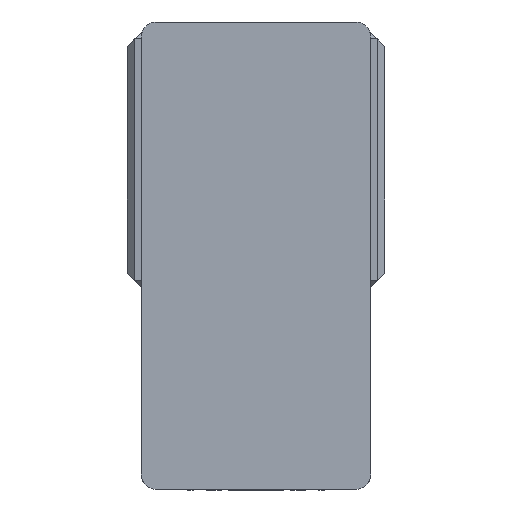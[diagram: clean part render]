
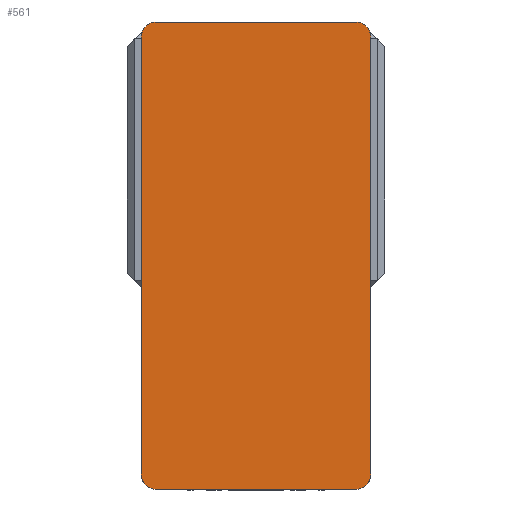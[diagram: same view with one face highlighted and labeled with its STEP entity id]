
A CAD part, left-side view. The second image highlights one B-rep face of the part: STEP entity #561.
In plain terms, the highlighted planar face has unit normal (-1, 0, 0) as drawn and (0, 0, 1) by its records, which use the part's own axes.
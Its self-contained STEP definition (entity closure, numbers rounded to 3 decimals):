
#41 = CARTESIAN_POINT ( 'NONE',  ( 65., 152.5, 105. ) ) ;
#214 = PLANE ( 'NONE',  #9255 ) ;
#422 = DIRECTION ( 'NONE',  ( 1., 0., 0. ) ) ;
#561 = ADVANCED_FACE ( 'NONE', ( #2829 ), #214, .T. ) ;
#696 = DIRECTION ( 'NONE',  ( 1., 0., 0. ) ) ;
#748 = VERTEX_POINT ( 'NONE', #7850 ) ;
#788 = CARTESIAN_POINT ( 'NONE',  ( 65., 142.5, 105. ) ) ;
#804 = ORIENTED_EDGE ( 'NONE', *, *, #6895, .T. ) ;
#819 = EDGE_LOOP ( 'NONE', ( #1095, #3771, #3560, #804, #2141, #9034, #1674, #2548 ) ) ;
#838 = VECTOR ( 'NONE', #1894, 1000. ) ;
#987 = LINE ( 'NONE', #6194, #3425 ) ;
#1069 = DIRECTION ( 'NONE',  ( 0., 0., 1. ) ) ;
#1095 = ORIENTED_EDGE ( 'NONE', *, *, #9619, .T. ) ;
#1133 = VERTEX_POINT ( 'NONE', #9523 ) ;
#1618 = DIRECTION ( 'NONE',  ( 1., 0., 0. ) ) ;
#1674 = ORIENTED_EDGE ( 'NONE', *, *, #5337, .T. ) ;
#1839 = CIRCLE ( 'NONE', #8568, 10. ) ;
#1848 = CARTESIAN_POINT ( 'NONE',  ( -75., 152.5, 105. ) ) ;
#1894 = DIRECTION ( 'NONE',  ( 0., 1., 0. ) ) ;
#2141 = ORIENTED_EDGE ( 'NONE', *, *, #4268, .T. ) ;
#2208 = CIRCLE ( 'NONE', #3453, 10. ) ;
#2462 = VERTEX_POINT ( 'NONE', #41 ) ;
#2548 = ORIENTED_EDGE ( 'NONE', *, *, #10521, .T. ) ;
#2564 = AXIS2_PLACEMENT_3D ( 'NONE', #788, #6581, #1618 ) ;
#2664 = DIRECTION ( 'NONE',  ( -1., 0., 0. ) ) ;
#2669 = EDGE_CURVE ( 'NONE', #8379, #9062, #9678, .T. ) ;
#2828 = AXIS2_PLACEMENT_3D ( 'NONE', #10377, #5387, #422 ) ;
#2829 = FACE_OUTER_BOUND ( 'NONE', #819, .T. ) ;
#3410 = CARTESIAN_POINT ( 'NONE',  ( -65., -142.5, 105. ) ) ;
#3412 = DIRECTION ( 'NONE',  ( 0., 0., 1. ) ) ;
#3425 = VECTOR ( 'NONE', #5360, 1000. ) ;
#3453 = AXIS2_PLACEMENT_3D ( 'NONE', #8394, #3412, #9240 ) ;
#3516 = CARTESIAN_POINT ( 'NONE',  ( 0., 0., 105. ) ) ;
#3560 = ORIENTED_EDGE ( 'NONE', *, *, #2669, .T. ) ;
#3738 = LINE ( 'NONE', #1848, #7365 ) ;
#3771 = ORIENTED_EDGE ( 'NONE', *, *, #5817, .T. ) ;
#3823 = CARTESIAN_POINT ( 'NONE',  ( -65., 152.5, 105. ) ) ;
#4256 = DIRECTION ( 'NONE',  ( 1., 0., 0. ) ) ;
#4268 = EDGE_CURVE ( 'NONE', #2462, #4436, #3738, .T. ) ;
#4392 = CARTESIAN_POINT ( 'NONE',  ( 75., 152.5, 105. ) ) ;
#4436 = VERTEX_POINT ( 'NONE', #3823 ) ;
#4536 = CIRCLE ( 'NONE', #2564, 10. ) ;
#5337 = EDGE_CURVE ( 'NONE', #748, #7261, #987, .T. ) ;
#5360 = DIRECTION ( 'NONE',  ( 0., -1., 0. ) ) ;
#5376 = CIRCLE ( 'NONE', #2828, 10. ) ;
#5387 = DIRECTION ( 'NONE',  ( 0., 0., 1. ) ) ;
#5817 = EDGE_CURVE ( 'NONE', #9186, #8379, #5376, .T. ) ;
#6194 = CARTESIAN_POINT ( 'NONE',  ( -75., 152.5, 105. ) ) ;
#6581 = DIRECTION ( 'NONE',  ( 0., 0., 1. ) ) ;
#6628 = CARTESIAN_POINT ( 'NONE',  ( 75., -142.5, 105. ) ) ;
#6861 = DIRECTION ( 'NONE',  ( 1., 0., 0. ) ) ;
#6895 = EDGE_CURVE ( 'NONE', #9062, #2462, #4536, .T. ) ;
#7189 = EDGE_CURVE ( 'NONE', #4436, #748, #2208, .T. ) ;
#7261 = VERTEX_POINT ( 'NONE', #7651 ) ;
#7365 = VECTOR ( 'NONE', #2664, 1000. ) ;
#7651 = CARTESIAN_POINT ( 'NONE',  ( -75., -142.5, 105. ) ) ;
#7850 = CARTESIAN_POINT ( 'NONE',  ( -75., 142.5, 105. ) ) ;
#8379 = VERTEX_POINT ( 'NONE', #6628 ) ;
#8394 = CARTESIAN_POINT ( 'NONE',  ( -65., 142.5, 105. ) ) ;
#8568 = AXIS2_PLACEMENT_3D ( 'NONE', #3410, #9235, #4256 ) ;
#8999 = LINE ( 'NONE', #9000, #10698 ) ;
#9000 = CARTESIAN_POINT ( 'NONE',  ( -75., -152.5, 105. ) ) ;
#9034 = ORIENTED_EDGE ( 'NONE', *, *, #7189, .T. ) ;
#9062 = VERTEX_POINT ( 'NONE', #9957 ) ;
#9186 = VERTEX_POINT ( 'NONE', #9292 ) ;
#9235 = DIRECTION ( 'NONE',  ( 0., 0., 1. ) ) ;
#9240 = DIRECTION ( 'NONE',  ( 1., 0., 0. ) ) ;
#9255 = AXIS2_PLACEMENT_3D ( 'NONE', #3516, #1069, #6861 ) ;
#9292 = CARTESIAN_POINT ( 'NONE',  ( 65., -152.5, 105. ) ) ;
#9523 = CARTESIAN_POINT ( 'NONE',  ( -65., -152.5, 105. ) ) ;
#9619 = EDGE_CURVE ( 'NONE', #1133, #9186, #8999, .T. ) ;
#9678 = LINE ( 'NONE', #4392, #838 ) ;
#9957 = CARTESIAN_POINT ( 'NONE',  ( 75., 142.5, 105. ) ) ;
#10377 = CARTESIAN_POINT ( 'NONE',  ( 65., -142.5, 105. ) ) ;
#10521 = EDGE_CURVE ( 'NONE', #7261, #1133, #1839, .T. ) ;
#10698 = VECTOR ( 'NONE', #696, 1000. ) ;
